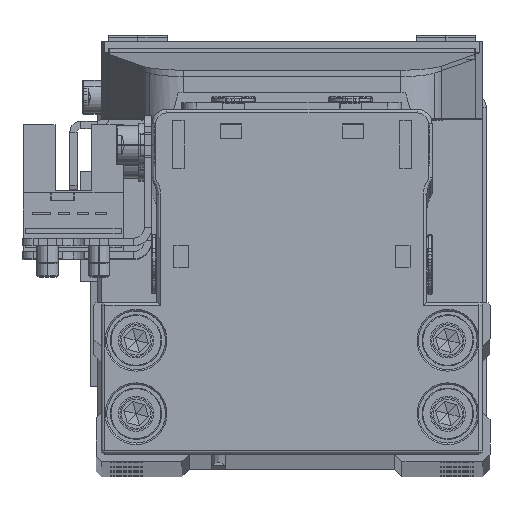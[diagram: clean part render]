
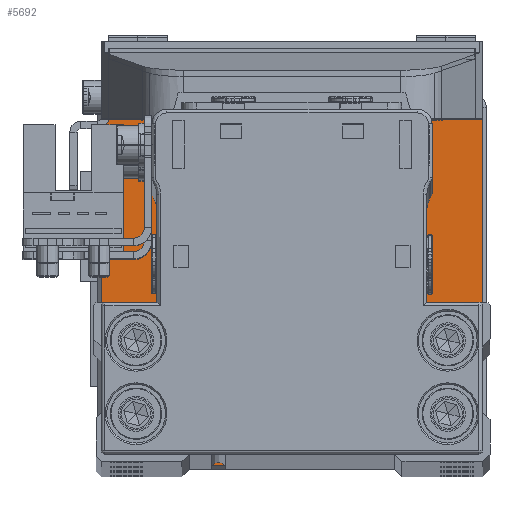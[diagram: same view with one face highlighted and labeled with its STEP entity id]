
A CAD part, top view. The second image highlights one B-rep face of the part: STEP entity #5692.
In plain terms, the highlighted planar face has unit normal (0, 0, 1).
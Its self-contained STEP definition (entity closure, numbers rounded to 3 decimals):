
#432 = CIRCLE ( 'NONE', #20266, 1. ) ;
#574 = ORIENTED_EDGE ( 'NONE', *, *, #19921, .T. ) ;
#625 = ORIENTED_EDGE ( 'NONE', *, *, #22369, .T. ) ;
#667 = AXIS2_PLACEMENT_3D ( 'NONE', #26089, #1753, #12559 ) ;
#903 = DIRECTION ( 'NONE',  ( 0., 0., -1. ) ) ;
#965 = DIRECTION ( 'NONE',  ( 1., 0., 0. ) ) ;
#1316 = AXIS2_PLACEMENT_3D ( 'NONE', #5764, #16592, #27448 ) ;
#1534 = AXIS2_PLACEMENT_3D ( 'NONE', #19981, #30834, #6488 ) ;
#1753 = DIRECTION ( 'NONE',  ( 0., 0., 1. ) ) ;
#1892 = AXIS2_PLACEMENT_3D ( 'NONE', #20859, #31702, #7340 ) ;
#2258 = FACE_BOUND ( 'NONE', #18711, .T. ) ;
#2278 = CARTESIAN_POINT ( 'NONE',  ( 26., -23.95, 6.5 ) ) ;
#2548 = EDGE_CURVE ( 'NONE', #17684, #27581, #12850, .T. ) ;
#2644 = CIRCLE ( 'NONE', #22485, 1. ) ;
#3090 = CARTESIAN_POINT ( 'NONE',  ( -21.25, 9.95, 6.5 ) ) ;
#3600 = CARTESIAN_POINT ( 'NONE',  ( -25., 24.95, 6.5 ) ) ;
#3671 = EDGE_LOOP ( 'NONE', ( #19487, #5164, #27937, #625, #11664, #22062, #10366, #20088 ) ) ;
#4170 = DIRECTION ( 'NONE',  ( -1., 0., 0. ) ) ;
#4211 = DIRECTION ( 'NONE',  ( 1., 0., 0. ) ) ;
#4218 = CIRCLE ( 'NONE', #24091, 1. ) ;
#4522 = EDGE_CURVE ( 'NONE', #30506, #31907, #432, .T. ) ;
#5164 = ORIENTED_EDGE ( 'NONE', *, *, #7757, .T. ) ;
#5300 = DIRECTION ( 'NONE',  ( 1., 0., 0. ) ) ;
#5472 = AXIS2_PLACEMENT_3D ( 'NONE', #20716, #31575, #7232 ) ;
#5499 = VERTEX_POINT ( 'NONE', #25553 ) ;
#5692 = ADVANCED_FACE ( 'NONE', ( #15746, #26603, #2258, #13068, #23934 ), #34767, .T. ) ;
#5764 = CARTESIAN_POINT ( 'NONE',  ( -21.25, 9.95, 6.5 ) ) ;
#6488 = DIRECTION ( 'NONE',  ( -1., 0., 0. ) ) ;
#7223 = VERTEX_POINT ( 'NONE', #12642 ) ;
#7232 = DIRECTION ( 'NONE',  ( -1., 0., 0. ) ) ;
#7340 = DIRECTION ( 'NONE',  ( -1., 0., 0. ) ) ;
#7757 = EDGE_CURVE ( 'NONE', #10930, #11758, #32170, .T. ) ;
#7822 = CARTESIAN_POINT ( 'NONE',  ( -26., -23.95, 6.5 ) ) ;
#7867 = ORIENTED_EDGE ( 'NONE', *, *, #16681, .T. ) ;
#8143 = EDGE_CURVE ( 'NONE', #11513, #10930, #15949, .T. ) ;
#8626 = ORIENTED_EDGE ( 'NONE', *, *, #2548, .T. ) ;
#9197 = ORIENTED_EDGE ( 'NONE', *, *, #17040, .T. ) ;
#9285 = CARTESIAN_POINT ( 'NONE',  ( 25., -24.95, 6.5 ) ) ;
#9385 = CARTESIAN_POINT ( 'NONE',  ( 18.85, 19.95, 6.5 ) ) ;
#9558 = VERTEX_POINT ( 'NONE', #24321 ) ;
#9847 = CIRCLE ( 'NONE', #29746, 2.4 ) ;
#10092 = CARTESIAN_POINT ( 'NONE',  ( -23.65, 9.95, 6.5 ) ) ;
#10138 = CARTESIAN_POINT ( 'NONE',  ( 23.65, 9.95, 6.5 ) ) ;
#10213 = DIRECTION ( 'NONE',  ( 0., 0., -1. ) ) ;
#10243 = DIRECTION ( 'NONE',  ( 0., 1., 0. ) ) ;
#10366 = ORIENTED_EDGE ( 'NONE', *, *, #15100, .T. ) ;
#10408 = CARTESIAN_POINT ( 'NONE',  ( 0., 0., 6.5 ) ) ;
#10857 = CARTESIAN_POINT ( 'NONE',  ( 23.65, 19.95, 6.5 ) ) ;
#10930 = VERTEX_POINT ( 'NONE', #32274 ) ;
#11513 = VERTEX_POINT ( 'NONE', #3600 ) ;
#11664 = ORIENTED_EDGE ( 'NONE', *, *, #4522, .T. ) ;
#11714 = DIRECTION ( 'NONE',  ( -1., 0., 0. ) ) ;
#11758 = VERTEX_POINT ( 'NONE', #26669 ) ;
#12231 = VERTEX_POINT ( 'NONE', #10092 ) ;
#12559 = DIRECTION ( 'NONE',  ( 1., 0., 0. ) ) ;
#12642 = CARTESIAN_POINT ( 'NONE',  ( -18.85, 9.95, 6.5 ) ) ;
#12707 = CIRCLE ( 'NONE', #32596, 2.4 ) ;
#12850 = CIRCLE ( 'NONE', #32723, 2.4 ) ;
#13068 = FACE_BOUND ( 'NONE', #13314, .T. ) ;
#13314 = EDGE_LOOP ( 'NONE', ( #9197, #25497 ) ) ;
#13336 = CARTESIAN_POINT ( 'NONE',  ( 21.25, 9.95, 6.5 ) ) ;
#13902 = DIRECTION ( 'NONE',  ( 0., 0., -1. ) ) ;
#14424 = CARTESIAN_POINT ( 'NONE',  ( 25., -23.95, 6.5 ) ) ;
#14786 = EDGE_CURVE ( 'NONE', #29738, #31747, #9847, .T. ) ;
#14816 = CIRCLE ( 'NONE', #19365, 2.4 ) ;
#15100 = EDGE_CURVE ( 'NONE', #5499, #33918, #4218, .T. ) ;
#15191 = ORIENTED_EDGE ( 'NONE', *, *, #14786, .T. ) ;
#15435 = CARTESIAN_POINT ( 'NONE',  ( 18.85, 9.95, 6.5 ) ) ;
#15746 = FACE_BOUND ( 'NONE', #21198, .T. ) ;
#15949 = CIRCLE ( 'NONE', #667, 1. ) ;
#16592 = DIRECTION ( 'NONE',  ( 0., 0., -1. ) ) ;
#16603 = CIRCLE ( 'NONE', #1316, 2.4 ) ;
#16639 = EDGE_CURVE ( 'NONE', #11758, #19309, #2644, .T. ) ;
#16681 = EDGE_CURVE ( 'NONE', #31747, #29738, #20777, .T. ) ;
#16811 = CIRCLE ( 'NONE', #1534, 2.4 ) ;
#16830 = AXIS2_PLACEMENT_3D ( 'NONE', #10408, #21270, #32117 ) ;
#17009 = CARTESIAN_POINT ( 'NONE',  ( -23.65, 19.95, 6.5 ) ) ;
#17040 = EDGE_CURVE ( 'NONE', #28409, #9558, #16811, .T. ) ;
#17185 = CIRCLE ( 'NONE', #1892, 2.4 ) ;
#17655 = LINE ( 'NONE', #28510, #23366 ) ;
#17684 = VERTEX_POINT ( 'NONE', #10138 ) ;
#17702 = CARTESIAN_POINT ( 'NONE',  ( -25., -23.95, 6.5 ) ) ;
#18548 = VECTOR ( 'NONE', #20140, 1000. ) ;
#18648 = DIRECTION ( 'NONE',  ( 0., -1., 0. ) ) ;
#18711 = EDGE_LOOP ( 'NONE', ( #19817, #34778 ) ) ;
#18788 = CARTESIAN_POINT ( 'NONE',  ( 25., 23.95, 6.5 ) ) ;
#19309 = VERTEX_POINT ( 'NONE', #31722 ) ;
#19365 = AXIS2_PLACEMENT_3D ( 'NONE', #3090, #13902, #24770 ) ;
#19487 = ORIENTED_EDGE ( 'NONE', *, *, #8143, .T. ) ;
#19817 = ORIENTED_EDGE ( 'NONE', *, *, #26834, .T. ) ;
#19921 = EDGE_CURVE ( 'NONE', #27581, #17684, #12707, .T. ) ;
#19981 = CARTESIAN_POINT ( 'NONE',  ( -21.25, 19.95, 6.5 ) ) ;
#20088 = ORIENTED_EDGE ( 'NONE', *, *, #23898, .T. ) ;
#20140 = DIRECTION ( 'NONE',  ( 1., 0., 0. ) ) ;
#20266 = AXIS2_PLACEMENT_3D ( 'NONE', #14424, #25292, #965 ) ;
#20716 = CARTESIAN_POINT ( 'NONE',  ( 21.25, 19.95, 6.5 ) ) ;
#20777 = CIRCLE ( 'NONE', #5472, 2.4 ) ;
#20859 = CARTESIAN_POINT ( 'NONE',  ( -21.25, 19.95, 6.5 ) ) ;
#21074 = DIRECTION ( 'NONE',  ( -1., 0., 0. ) ) ;
#21198 = EDGE_LOOP ( 'NONE', ( #7867, #15191 ) ) ;
#21238 = CARTESIAN_POINT ( 'NONE',  ( 25., -24.95, 6.5 ) ) ;
#21270 = DIRECTION ( 'NONE',  ( 0., 0., 1. ) ) ;
#22062 = ORIENTED_EDGE ( 'NONE', *, *, #31886, .T. ) ;
#22369 = EDGE_CURVE ( 'NONE', #19309, #30506, #33637, .T. ) ;
#22408 = VECTOR ( 'NONE', #10243, 1000. ) ;
#22468 = VECTOR ( 'NONE', #18648, 1000. ) ;
#22485 = AXIS2_PLACEMENT_3D ( 'NONE', #17702, #28549, #4211 ) ;
#23366 = VECTOR ( 'NONE', #4170, 1000. ) ;
#23780 = LINE ( 'NONE', #34611, #22408 ) ;
#23898 = EDGE_CURVE ( 'NONE', #33918, #11513, #17655, .T. ) ;
#23934 = FACE_OUTER_BOUND ( 'NONE', #3671, .T. ) ;
#24091 = AXIS2_PLACEMENT_3D ( 'NONE', #18788, #29642, #5300 ) ;
#24212 = DIRECTION ( 'NONE',  ( 0., 0., -1. ) ) ;
#24321 = CARTESIAN_POINT ( 'NONE',  ( -18.85, 19.95, 6.5 ) ) ;
#24376 = EDGE_LOOP ( 'NONE', ( #574, #8626 ) ) ;
#24770 = DIRECTION ( 'NONE',  ( -1., 0., 0. ) ) ;
#25228 = CARTESIAN_POINT ( 'NONE',  ( 21.25, 19.95, 6.5 ) ) ;
#25292 = DIRECTION ( 'NONE',  ( 0., 0., 1. ) ) ;
#25497 = ORIENTED_EDGE ( 'NONE', *, *, #30925, .T. ) ;
#25553 = CARTESIAN_POINT ( 'NONE',  ( 26., 23.95, 6.5 ) ) ;
#26089 = CARTESIAN_POINT ( 'NONE',  ( -25., 23.95, 6.5 ) ) ;
#26603 = FACE_BOUND ( 'NONE', #24376, .T. ) ;
#26669 = CARTESIAN_POINT ( 'NONE',  ( -26., -23.95, 6.5 ) ) ;
#26834 = EDGE_CURVE ( 'NONE', #12231, #7223, #14816, .T. ) ;
#27448 = DIRECTION ( 'NONE',  ( -1., 0., 0. ) ) ;
#27581 = VERTEX_POINT ( 'NONE', #15435 ) ;
#27802 = CARTESIAN_POINT ( 'NONE',  ( 25., 24.95, 6.5 ) ) ;
#27937 = ORIENTED_EDGE ( 'NONE', *, *, #16639, .T. ) ;
#28409 = VERTEX_POINT ( 'NONE', #17009 ) ;
#28510 = CARTESIAN_POINT ( 'NONE',  ( -25., 24.95, 6.5 ) ) ;
#28549 = DIRECTION ( 'NONE',  ( 0., 0., 1. ) ) ;
#29642 = DIRECTION ( 'NONE',  ( 0., 0., 1. ) ) ;
#29738 = VERTEX_POINT ( 'NONE', #10857 ) ;
#29746 = AXIS2_PLACEMENT_3D ( 'NONE', #25228, #903, #11714 ) ;
#30506 = VERTEX_POINT ( 'NONE', #21238 ) ;
#30618 = EDGE_CURVE ( 'NONE', #7223, #12231, #16603, .T. ) ;
#30834 = DIRECTION ( 'NONE',  ( 0., 0., -1. ) ) ;
#30925 = EDGE_CURVE ( 'NONE', #9558, #28409, #17185, .T. ) ;
#31575 = DIRECTION ( 'NONE',  ( 0., 0., -1. ) ) ;
#31702 = DIRECTION ( 'NONE',  ( 0., 0., -1. ) ) ;
#31722 = CARTESIAN_POINT ( 'NONE',  ( -25., -24.95, 6.5 ) ) ;
#31747 = VERTEX_POINT ( 'NONE', #9385 ) ;
#31886 = EDGE_CURVE ( 'NONE', #31907, #5499, #23780, .T. ) ;
#31907 = VERTEX_POINT ( 'NONE', #2278 ) ;
#32117 = DIRECTION ( 'NONE',  ( 1., 0., 0. ) ) ;
#32170 = LINE ( 'NONE', #7822, #22468 ) ;
#32274 = CARTESIAN_POINT ( 'NONE',  ( -26., 23.95, 6.5 ) ) ;
#32596 = AXIS2_PLACEMENT_3D ( 'NONE', #13336, #24212, #35048 ) ;
#32723 = AXIS2_PLACEMENT_3D ( 'NONE', #34584, #10213, #21074 ) ;
#33637 = LINE ( 'NONE', #9285, #18548 ) ;
#33918 = VERTEX_POINT ( 'NONE', #27802 ) ;
#34584 = CARTESIAN_POINT ( 'NONE',  ( 21.25, 9.95, 6.5 ) ) ;
#34611 = CARTESIAN_POINT ( 'NONE',  ( 26., 23.95, 6.5 ) ) ;
#34767 = PLANE ( 'NONE',  #16830 ) ;
#34778 = ORIENTED_EDGE ( 'NONE', *, *, #30618, .T. ) ;
#35048 = DIRECTION ( 'NONE',  ( -1., 0., 0. ) ) ;
